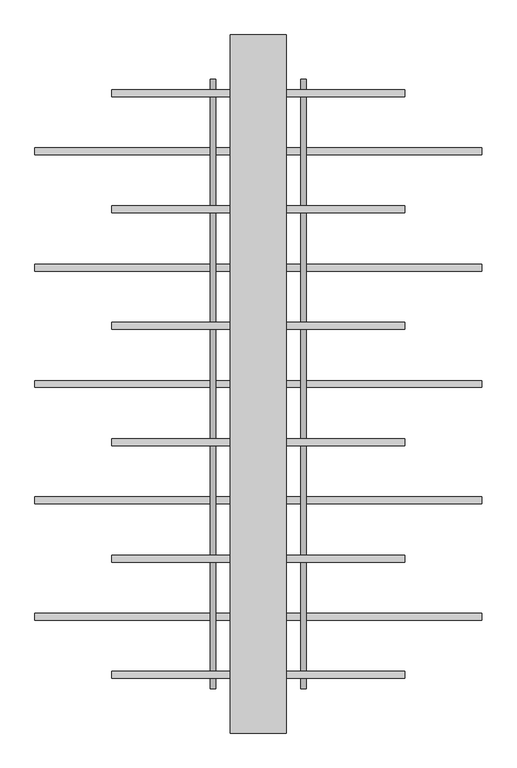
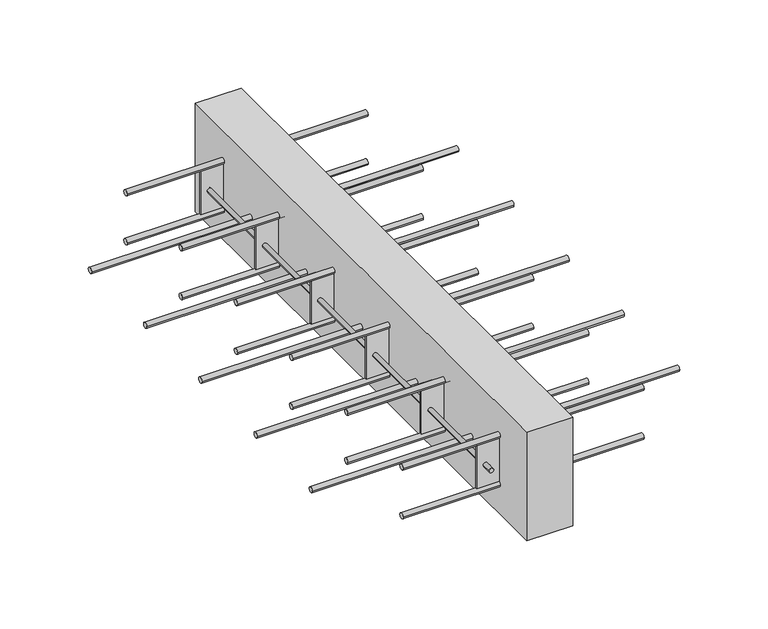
"""IFC4 building model written with IfcOpenShell, lengths in millimetres: proxy geometry, ACINOXplus_Typenreihe_Q : QE+ N."""

from ifc_helpers import new_model, si_unit, point, frame, frame_2d, origin, place, context, project, spatial, polyline, circle_curve, trimmed, segment, composite_curve, outline, extrude, source, transform, mapped, element, save


def generic_models_cc4a3802(model_context):
    return source(origin(), model_context, "Body", "SweptSolid", [
        extrude(outline(composite_curve([segment(trimmed(circle_curve(frame_2d((0.0, -109.0)), 5.0), [point((-5.0, -109.0))], [point((5.0, -109.0))], False, "CARTESIAN"), True, "CONTINUOUS"), segment(trimmed(circle_curve(frame_2d((0.0, -109.0)), 5.0), [point((5.0, -109.0))], [point((-5.0, -109.0))], False, "CARTESIAN"), True, "CONTINUOUS")], self_intersect=False)), frame((-320.0, 0.0, 0.0), z_axis=(1.0, 0.0, 0.0), x_axis=(0.0, 1.0, 0.0)), (0.0, 0.0, 1.0), 640.0),
        extrude(outline(composite_curve([segment(trimmed(circle_curve(frame_2d((166.6666667, -109.0)), 5.0), [point((161.6666667, -109.0))], [point((171.6666667, -109.0))], False, "CARTESIAN"), True, "CONTINUOUS"), segment(trimmed(circle_curve(frame_2d((166.6666667, -109.0)), 5.0), [point((171.6666667, -109.0))], [point((161.6666667, -109.0))], False, "CARTESIAN"), True, "CONTINUOUS")], self_intersect=False)), frame((-320.0, 0.0, 0.0), z_axis=(1.0, 0.0, 0.0), x_axis=(0.0, 1.0, 0.0)), (0.0, 0.0, 1.0), 640.0),
        extrude(outline(composite_curve([segment(trimmed(circle_curve(frame_2d((333.3333333, -109.0)), 5.0), [point((328.3333333, -109.0))], [point((338.3333333, -109.0))], False, "CARTESIAN"), True, "CONTINUOUS"), segment(trimmed(circle_curve(frame_2d((333.3333333, -109.0)), 5.0), [point((338.3333333, -109.0))], [point((328.3333333, -109.0))], False, "CARTESIAN"), True, "CONTINUOUS")], self_intersect=False)), frame((-320.0, 0.0, 0.0), z_axis=(1.0, 0.0, 0.0), x_axis=(0.0, 1.0, 0.0)), (0.0, 0.0, 1.0), 640.0),
        extrude(outline(composite_curve([segment(trimmed(circle_curve(frame_2d((-166.6666667, -109.0)), 5.0), [point((-171.6666667, -109.0))], [point((-161.6666667, -109.0))], False, "CARTESIAN"), True, "CONTINUOUS"), segment(trimmed(circle_curve(frame_2d((-166.6666667, -109.0)), 5.0), [point((-161.6666667, -109.0))], [point((-171.6666667, -109.0))], False, "CARTESIAN"), True, "CONTINUOUS")], self_intersect=False)), frame((-320.0, 0.0, 0.0), z_axis=(1.0, 0.0, 0.0), x_axis=(0.0, 1.0, 0.0)), (0.0, 0.0, 1.0), 640.0),
        extrude(outline(composite_curve([segment(trimmed(circle_curve(frame_2d((-333.3333333, -109.0)), 5.0), [point((-338.3333333, -109.0))], [point((-328.3333333, -109.0))], False, "CARTESIAN"), True, "CONTINUOUS"), segment(trimmed(circle_curve(frame_2d((-333.3333333, -109.0)), 5.0), [point((-328.3333333, -109.0))], [point((-338.3333333, -109.0))], False, "CARTESIAN"), True, "CONTINUOUS")], self_intersect=False)), frame((-320.0, 0.0, 0.0), z_axis=(1.0, 0.0, 0.0), x_axis=(0.0, 1.0, 0.0)), (0.0, 0.0, 1.0), 640.0),
        extrude(outline(polyline([(40.0, 500.0), (40.0, -500.0), (-40.0, -500.0), (-40.0, 500.0), (40.0, 500.0)])), frame((0.0, 0.0, -200.0), z_axis=(0.0, 0.0, 1.0), x_axis=(1.0, 0.0, 0.0)), (0.0, 0.0, 1.0), 200.0),
        extrude(outline(polyline([(80.0, -248.5), (80.0, -251.5), (-80.0, -251.5), (-80.0, -248.5), (80.0, -248.5)])), frame((0.0, 0.0, -140.0), z_axis=(0.0, 0.0, 1.0), x_axis=(1.0, 0.0, 0.0)), (0.0, 0.0, 1.0), 80.0),
        extrude(outline(polyline([(80.0, -81.8333333), (80.0, -84.8333333), (-80.0, -84.8333333), (-80.0, -81.8333333), (80.0, -81.8333333)])), frame((0.0, 0.0, -140.0), z_axis=(0.0, 0.0, 1.0), x_axis=(1.0, 0.0, 0.0)), (0.0, 0.0, 1.0), 80.0),
        extrude(outline(polyline([(80.0, 84.8333333), (80.0, 81.8333333), (-80.0, 81.8333333), (-80.0, 84.8333333), (80.0, 84.8333333)])), frame((0.0, 0.0, -140.0), z_axis=(0.0, 0.0, 1.0), x_axis=(1.0, 0.0, 0.0)), (0.0, 0.0, 1.0), 80.0),
        extrude(outline(polyline([(80.0, 251.5), (80.0, 248.5), (-80.0, 248.5), (-80.0, 251.5), (80.0, 251.5)])), frame((0.0, 0.0, -140.0), z_axis=(0.0, 0.0, 1.0), x_axis=(1.0, 0.0, 0.0)), (0.0, 0.0, 1.0), 80.0),
        extrude(outline(polyline([(80.0, -415.1666667), (80.0, -418.1666667), (-80.0, -418.1666667), (-80.0, -415.1666667), (80.0, -415.1666667)])), frame((0.0, 0.0, -140.0), z_axis=(0.0, 0.0, 1.0), x_axis=(1.0, 0.0, 0.0)), (0.0, 0.0, 1.0), 80.0),
        extrude(outline(polyline([(80.0, 418.1666667), (80.0, 415.1666667), (-80.0, 415.1666667), (-80.0, 418.1666667), (80.0, 418.1666667)])), frame((0.0, 0.0, -140.0), z_axis=(0.0, 0.0, 1.0), x_axis=(1.0, 0.0, 0.0)), (0.0, 0.0, 1.0), 80.0),
        extrude(outline(composite_curve([segment(trimmed(circle_curve(frame_2d((-100.0, -65.0)), 4.0), [point((-100.0, -69.0))], [point((-100.0, -61.0))], False, "CARTESIAN"), True, "CONTINUOUS"), segment(trimmed(circle_curve(frame_2d((-100.0, -65.0)), 4.0), [point((-100.0, -61.0))], [point((-100.0, -69.0))], False, "CARTESIAN"), True, "CONTINUOUS")], self_intersect=False)), frame((0.0, -415.1666667, 0.0), z_axis=(0.0, 1.0, 0.0), x_axis=(0.0, 0.0, 1.0)), (0.0, 0.0, 1.0), 663.6666667),
        extrude(outline(composite_curve([segment(trimmed(circle_curve(frame_2d((-100.0, -65.0)), 4.0), [point((-100.0, -69.0))], [point((-100.0, -61.0))], False, "CARTESIAN"), True, "CONTINUOUS"), segment(trimmed(circle_curve(frame_2d((-100.0, -65.0)), 4.0), [point((-100.0, -61.0))], [point((-100.0, -69.0))], False, "CARTESIAN"), True, "CONTINUOUS")], self_intersect=False)), frame((0.0, 418.1666667, 0.0), z_axis=(0.0, 1.0, 0.0), x_axis=(0.0, 0.0, 1.0)), (0.0, 0.0, 1.0), 18.5),
        extrude(outline(composite_curve([segment(trimmed(circle_curve(frame_2d((-100.0, -65.0)), 4.0), [point((-100.0, -61.0))], [point((-100.0, -69.0))], False, "CARTESIAN"), True, "CONTINUOUS"), segment(trimmed(circle_curve(frame_2d((-100.0, -65.0)), 4.0), [point((-100.0, -69.0))], [point((-100.0, -61.0))], False, "CARTESIAN"), True, "CONTINUOUS")], self_intersect=False)), frame((0.0, -436.6666667, 0.0), z_axis=(0.0, 1.0, 0.0), x_axis=(0.0, 0.0, 1.0)), (0.0, 0.0, 1.0), 18.5),
        extrude(outline(composite_curve([segment(trimmed(circle_curve(frame_2d((-100.0, -65.0)), 4.0), [point((-100.0, -69.0))], [point((-100.0, -61.0))], False, "CARTESIAN"), True, "CONTINUOUS"), segment(trimmed(circle_curve(frame_2d((-100.0, -65.0)), 4.0), [point((-100.0, -61.0))], [point((-100.0, -69.0))], False, "CARTESIAN"), True, "CONTINUOUS")], self_intersect=False)), frame((0.0, 251.5, 0.0), z_axis=(0.0, 1.0, 0.0), x_axis=(0.0, 0.0, 1.0)), (0.0, 0.0, 1.0), 163.6666667),
        extrude(outline(composite_curve([segment(trimmed(circle_curve(frame_2d((-100.0, 65.0)), 4.0), [point((-100.0, 61.0))], [point((-100.0, 69.0))], False, "CARTESIAN"), True, "CONTINUOUS"), segment(trimmed(circle_curve(frame_2d((-100.0, 65.0)), 4.0), [point((-100.0, 69.0))], [point((-100.0, 61.0))], False, "CARTESIAN"), True, "CONTINUOUS")], self_intersect=False)), frame((0.0, -415.1666667, 0.0), z_axis=(0.0, 1.0, 0.0), x_axis=(0.0, 0.0, 1.0)), (0.0, 0.0, 1.0), 663.6666667),
        extrude(outline(composite_curve([segment(trimmed(circle_curve(frame_2d((-100.0, 65.0)), 4.0), [point((-100.0, 61.0))], [point((-100.0, 69.0))], False, "CARTESIAN"), True, "CONTINUOUS"), segment(trimmed(circle_curve(frame_2d((-100.0, 65.0)), 4.0), [point((-100.0, 69.0))], [point((-100.0, 61.0))], False, "CARTESIAN"), True, "CONTINUOUS")], self_intersect=False)), frame((0.0, 418.1666667, 0.0), z_axis=(0.0, 1.0, 0.0), x_axis=(0.0, 0.0, 1.0)), (0.0, 0.0, 1.0), 18.5),
        extrude(outline(composite_curve([segment(trimmed(circle_curve(frame_2d((-100.0, 65.0)), 4.0), [point((-100.0, 69.0))], [point((-100.0, 61.0))], False, "CARTESIAN"), True, "CONTINUOUS"), segment(trimmed(circle_curve(frame_2d((-100.0, 65.0)), 4.0), [point((-100.0, 61.0))], [point((-100.0, 69.0))], False, "CARTESIAN"), True, "CONTINUOUS")], self_intersect=False)), frame((0.0, -436.6666667, 0.0), z_axis=(0.0, 1.0, 0.0), x_axis=(0.0, 0.0, 1.0)), (0.0, 0.0, 1.0), 18.5),
        extrude(outline(composite_curve([segment(trimmed(circle_curve(frame_2d((-100.0, 65.0)), 4.0), [point((-100.0, 61.0))], [point((-100.0, 69.0))], False, "CARTESIAN"), True, "CONTINUOUS"), segment(trimmed(circle_curve(frame_2d((-100.0, 65.0)), 4.0), [point((-100.0, 69.0))], [point((-100.0, 61.0))], False, "CARTESIAN"), True, "CONTINUOUS")], self_intersect=False)), frame((0.0, 251.5, 0.0), z_axis=(0.0, 1.0, 0.0), x_axis=(0.0, 0.0, 1.0)), (0.0, 0.0, 1.0), 163.6666667),
        extrude(outline(composite_curve([segment(trimmed(circle_curve(frame_2d((83.3333333, -145.0)), 5.0), [point((78.3333333, -145.0))], [point((88.3333333, -145.0))], False, "CARTESIAN"), True, "CONTINUOUS"), segment(trimmed(circle_curve(frame_2d((83.3333333, -145.0)), 5.0), [point((88.3333333, -145.0))], [point((78.3333333, -145.0))], False, "CARTESIAN"), True, "CONTINUOUS")], self_intersect=False)), frame((-210.0, 0.0, 0.0), z_axis=(1.0, 0.0, 0.0), x_axis=(0.0, 1.0, 0.0)), (0.0, 0.0, 1.0), 420.0),
        extrude(outline(composite_curve([segment(trimmed(circle_curve(frame_2d((-83.3333333, -145.0)), 5.0), [point((-88.3333333, -145.0))], [point((-78.3333333, -145.0))], False, "CARTESIAN"), True, "CONTINUOUS"), segment(trimmed(circle_curve(frame_2d((-83.3333333, -145.0)), 5.0), [point((-78.3333333, -145.0))], [point((-88.3333333, -145.0))], False, "CARTESIAN"), True, "CONTINUOUS")], self_intersect=False)), frame((-210.0, 0.0, 0.0), z_axis=(1.0, 0.0, 0.0), x_axis=(0.0, 1.0, 0.0)), (0.0, 0.0, 1.0), 420.0),
        extrude(outline(composite_curve([segment(trimmed(circle_curve(frame_2d((250.0, -145.0)), 5.0), [point((245.0, -145.0))], [point((255.0, -145.0))], False, "CARTESIAN"), True, "CONTINUOUS"), segment(trimmed(circle_curve(frame_2d((250.0, -145.0)), 5.0), [point((255.0, -145.0))], [point((245.0, -145.0))], False, "CARTESIAN"), True, "CONTINUOUS")], self_intersect=False)), frame((-210.0, 0.0, 0.0), z_axis=(1.0, 0.0, 0.0), x_axis=(0.0, 1.0, 0.0)), (0.0, 0.0, 1.0), 420.0),
        extrude(outline(composite_curve([segment(trimmed(circle_curve(frame_2d((416.6666667, -145.0)), 5.0), [point((411.6666667, -145.0))], [point((421.6666667, -145.0))], False, "CARTESIAN"), True, "CONTINUOUS"), segment(trimmed(circle_curve(frame_2d((416.6666667, -145.0)), 5.0), [point((421.6666667, -145.0))], [point((411.6666667, -145.0))], False, "CARTESIAN"), True, "CONTINUOUS")], self_intersect=False)), frame((-210.0, 0.0, 0.0), z_axis=(1.0, 0.0, 0.0), x_axis=(0.0, 1.0, 0.0)), (0.0, 0.0, 1.0), 420.0),
        extrude(outline(composite_curve([segment(trimmed(circle_curve(frame_2d((-250.0, -145.0)), 5.0), [point((-255.0, -145.0))], [point((-245.0, -145.0))], False, "CARTESIAN"), True, "CONTINUOUS"), segment(trimmed(circle_curve(frame_2d((-250.0, -145.0)), 5.0), [point((-245.0, -145.0))], [point((-255.0, -145.0))], False, "CARTESIAN"), True, "CONTINUOUS")], self_intersect=False)), frame((-210.0, 0.0, 0.0), z_axis=(1.0, 0.0, 0.0), x_axis=(0.0, 1.0, 0.0)), (0.0, 0.0, 1.0), 420.0),
        extrude(outline(composite_curve([segment(trimmed(circle_curve(frame_2d((-416.6666667, -145.0)), 5.0), [point((-421.6666667, -145.0))], [point((-411.6666667, -145.0))], False, "CARTESIAN"), True, "CONTINUOUS"), segment(trimmed(circle_curve(frame_2d((-416.6666667, -145.0)), 5.0), [point((-411.6666667, -145.0))], [point((-421.6666667, -145.0))], False, "CARTESIAN"), True, "CONTINUOUS")], self_intersect=False)), frame((-210.0, 0.0, 0.0), z_axis=(1.0, 0.0, 0.0), x_axis=(0.0, 1.0, 0.0)), (0.0, 0.0, 1.0), 420.0),
        extrude(outline(composite_curve([segment(trimmed(circle_curve(frame_2d((83.3333333, -55.0)), 5.0), [point((78.3333333, -55.0))], [point((88.3333333, -55.0))], False, "CARTESIAN"), True, "CONTINUOUS"), segment(trimmed(circle_curve(frame_2d((83.3333333, -55.0)), 5.0), [point((88.3333333, -55.0))], [point((78.3333333, -55.0))], False, "CARTESIAN"), True, "CONTINUOUS")], self_intersect=False)), frame((-210.0, 0.0, 0.0), z_axis=(1.0, 0.0, 0.0), x_axis=(0.0, 1.0, 0.0)), (0.0, 0.0, 1.0), 420.0),
        extrude(outline(composite_curve([segment(trimmed(circle_curve(frame_2d((-83.3333333, -55.0)), 5.0), [point((-88.3333333, -55.0))], [point((-78.3333333, -55.0))], False, "CARTESIAN"), True, "CONTINUOUS"), segment(trimmed(circle_curve(frame_2d((-83.3333333, -55.0)), 5.0), [point((-78.3333333, -55.0))], [point((-88.3333333, -55.0))], False, "CARTESIAN"), True, "CONTINUOUS")], self_intersect=False)), frame((-210.0, 0.0, 0.0), z_axis=(1.0, 0.0, 0.0), x_axis=(0.0, 1.0, 0.0)), (0.0, 0.0, 1.0), 420.0),
        extrude(outline(composite_curve([segment(trimmed(circle_curve(frame_2d((250.0, -55.0)), 5.0), [point((245.0, -55.0))], [point((255.0, -55.0))], False, "CARTESIAN"), True, "CONTINUOUS"), segment(trimmed(circle_curve(frame_2d((250.0, -55.0)), 5.0), [point((255.0, -55.0))], [point((245.0, -55.0))], False, "CARTESIAN"), True, "CONTINUOUS")], self_intersect=False)), frame((-210.0, 0.0, 0.0), z_axis=(1.0, 0.0, 0.0), x_axis=(0.0, 1.0, 0.0)), (0.0, 0.0, 1.0), 420.0),
        extrude(outline(composite_curve([segment(trimmed(circle_curve(frame_2d((416.6666667, -55.0)), 5.0), [point((411.6666667, -55.0))], [point((421.6666667, -55.0))], False, "CARTESIAN"), True, "CONTINUOUS"), segment(trimmed(circle_curve(frame_2d((416.6666667, -55.0)), 5.0), [point((421.6666667, -55.0))], [point((411.6666667, -55.0))], False, "CARTESIAN"), True, "CONTINUOUS")], self_intersect=False)), frame((-210.0, 0.0, 0.0), z_axis=(1.0, 0.0, 0.0), x_axis=(0.0, 1.0, 0.0)), (0.0, 0.0, 1.0), 420.0),
        extrude(outline(composite_curve([segment(trimmed(circle_curve(frame_2d((-250.0, -55.0)), 5.0), [point((-255.0, -55.0))], [point((-245.0, -55.0))], False, "CARTESIAN"), True, "CONTINUOUS"), segment(trimmed(circle_curve(frame_2d((-250.0, -55.0)), 5.0), [point((-245.0, -55.0))], [point((-255.0, -55.0))], False, "CARTESIAN"), True, "CONTINUOUS")], self_intersect=False)), frame((-210.0, 0.0, 0.0), z_axis=(1.0, 0.0, 0.0), x_axis=(0.0, 1.0, 0.0)), (0.0, 0.0, 1.0), 420.0),
        extrude(outline(composite_curve([segment(trimmed(circle_curve(frame_2d((-416.6666667, -55.0)), 5.0), [point((-421.6666667, -55.0))], [point((-411.6666667, -55.0))], False, "CARTESIAN"), True, "CONTINUOUS"), segment(trimmed(circle_curve(frame_2d((-416.6666667, -55.0)), 5.0), [point((-411.6666667, -55.0))], [point((-421.6666667, -55.0))], False, "CARTESIAN"), True, "CONTINUOUS")], self_intersect=False)), frame((-210.0, 0.0, 0.0), z_axis=(1.0, 0.0, 0.0), x_axis=(0.0, 1.0, 0.0)), (0.0, 0.0, 1.0), 420.0),
    ])


if __name__ == "__main__":
    model = new_model("IFC4")
    model_context = context("Model", 3, world=origin())
    ifc_project = project(units=[si_unit("LENGTHUNIT", "METRE", prefix="MILLI")], contexts=[model_context])
    site = spatial("IfcSite", under=ifc_project)
    building = spatial("IfcBuilding", under=site)
    placement = place(None, origin())
    generic_models_shape = generic_models_cc4a3802(model_context)
    element("IfcBuildingElementProxy", 1, Name="ACINOXplus_Typenreihe_Q : QE+ N", ObjectType="ACINOXplus_Typenreihe_Q : QE+ N", at=placement, inside=building, context=model_context, shape_type="MappedRepresentation", body=[
        mapped(generic_models_shape, transform((0.0, 0.0, 0.0), x_axis=(1.0, 0.0, 0.0), y_axis=(0.0, 1.0, 0.0), z_axis=(0.0, 0.0, 1.0))),
    ])
    save(model, "model.ifc")
